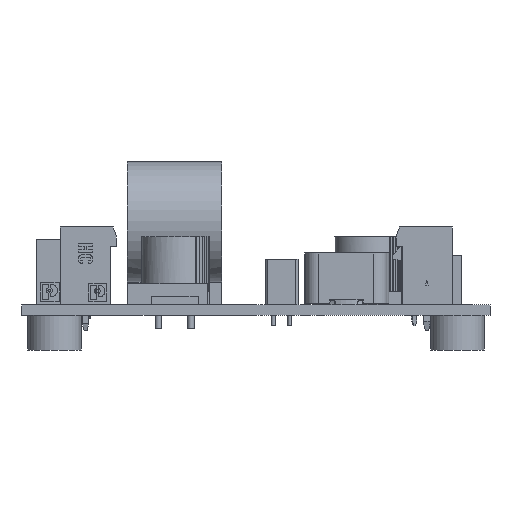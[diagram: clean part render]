
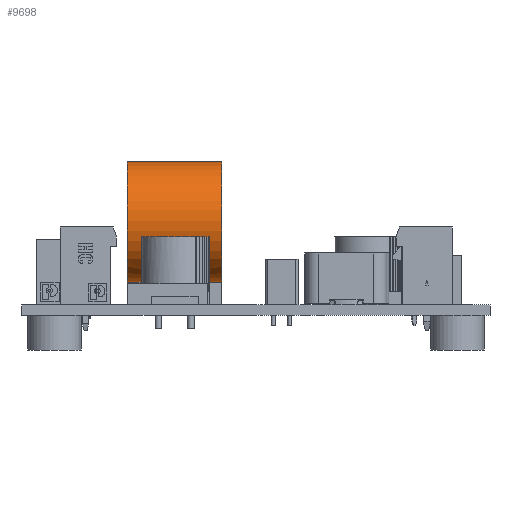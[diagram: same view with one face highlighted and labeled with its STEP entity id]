
A CAD part, front view. The second image highlights one B-rep face of the part: STEP entity #9698.
In plain terms, the highlighted cylindrical face has radius 9.25 mm (diameter 18.5 mm), a partial arc.
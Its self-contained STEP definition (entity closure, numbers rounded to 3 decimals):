
#785=CYLINDRICAL_SURFACE('',#105541,9.25);
#4484=FACE_OUTER_BOUND('',#23831,.T.);
#9698=ADVANCED_FACE('',(#4484),#785,.T.);
#16425=B_SPLINE_CURVE_WITH_KNOTS('',3,(#160018,#160019,#160020,#160021),
 .UNSPECIFIED.,.F.,.F.,(4,4),(0.,1.),.UNSPECIFIED.);
#16426=B_SPLINE_CURVE_WITH_KNOTS('',3,(#160030,#160031,#160032,#160033),
 .UNSPECIFIED.,.F.,.F.,(4,4),(0.,1.),.UNSPECIFIED.);
#16427=B_SPLINE_CURVE_WITH_KNOTS('',3,(#160042,#160043,#160044,#160045),
 .UNSPECIFIED.,.F.,.F.,(4,4),(0.,1.),.UNSPECIFIED.);
#16428=B_SPLINE_CURVE_WITH_KNOTS('',3,(#160066,#160067,#160068,#160069),
 .UNSPECIFIED.,.F.,.F.,(4,4),(0.,1.),.UNSPECIFIED.);
#16433=B_SPLINE_CURVE_WITH_KNOTS('',3,(#160108,#160109,#160110,#160111),
 .UNSPECIFIED.,.F.,.F.,(4,4),(0.,1.),.UNSPECIFIED.);
#16434=B_SPLINE_CURVE_WITH_KNOTS('',3,(#160123,#160124,#160125,#160126),
 .UNSPECIFIED.,.F.,.F.,(4,4),(0.,1.),.UNSPECIFIED.);
#17380=CIRCLE('',#105524,9.25);
#17381=CIRCLE('',#105526,9.25);
#17382=CIRCLE('',#105534,9.25);
#17383=CIRCLE('',#105536,9.25);
#17384=CIRCLE('',#105539,9.25);
#17385=CIRCLE('',#105540,9.25);
#23831=EDGE_LOOP('',(#42578,#42579,#42580,#42581,#42582,#42583,#42584,#42585,
#42586,#42587,#42588,#42589));
#42578=ORIENTED_EDGE('',*,*,#72435,.T.);
#42579=ORIENTED_EDGE('',*,*,#72395,.T.);
#42580=ORIENTED_EDGE('',*,*,#72407,.T.);
#42581=ORIENTED_EDGE('',*,*,#72413,.T.);
#42582=ORIENTED_EDGE('',*,*,#72410,.T.);
#42583=ORIENTED_EDGE('',*,*,#72403,.T.);
#42584=ORIENTED_EDGE('',*,*,#72436,.F.);
#42585=ORIENTED_EDGE('',*,*,#72428,.T.);
#42586=ORIENTED_EDGE('',*,*,#72432,.T.);
#42587=ORIENTED_EDGE('',*,*,#72434,.T.);
#42588=ORIENTED_EDGE('',*,*,#72430,.T.);
#42589=ORIENTED_EDGE('',*,*,#72399,.T.);
#60355=VERTEX_POINT('',#160022);
#60356=VERTEX_POINT('',#160023);
#60359=VERTEX_POINT('',#160034);
#60360=VERTEX_POINT('',#160035);
#60363=VERTEX_POINT('',#160046);
#60364=VERTEX_POINT('',#160047);
#60367=VERTEX_POINT('',#160055);
#60369=VERTEX_POINT('',#160061);
#60377=VERTEX_POINT('',#160099);
#60378=VERTEX_POINT('',#160112);
#60379=VERTEX_POINT('',#160116);
#60380=VERTEX_POINT('',#160120);
#72395=EDGE_CURVE('',#60355,#60356,#16425,.T.);
#72399=EDGE_CURVE('',#60359,#60360,#16426,.T.);
#72403=EDGE_CURVE('',#60363,#60364,#16427,.T.);
#72407=EDGE_CURVE('',#60356,#60367,#17380,.T.);
#72410=EDGE_CURVE('',#60369,#60363,#17381,.T.);
#72413=EDGE_CURVE('',#60367,#60369,#16428,.T.);
#72428=EDGE_CURVE('',#60377,#60378,#16433,.T.);
#72430=EDGE_CURVE('',#60379,#60359,#17382,.T.);
#72432=EDGE_CURVE('',#60378,#60380,#17383,.T.);
#72434=EDGE_CURVE('',#60380,#60379,#16434,.T.);
#72435=EDGE_CURVE('',#60360,#60355,#17384,.T.);
#72436=EDGE_CURVE('',#60377,#60364,#17385,.T.);
#105524=AXIS2_PLACEMENT_3D('',#160054,#124333,#124334);
#105526=AXIS2_PLACEMENT_3D('',#160060,#124339,#124340);
#105534=AXIS2_PLACEMENT_3D('',#160115,#124368,#124369);
#105536=AXIS2_PLACEMENT_3D('',#160119,#124373,#124374);
#105539=AXIS2_PLACEMENT_3D('',#160128,#124380,#124381);
#105540=AXIS2_PLACEMENT_3D('',#160129,#124382,#124383);
#105541=AXIS2_PLACEMENT_3D('',#160130,#124384,#124385);
#124333=DIRECTION('',(1.,0.,0.));
#124334=DIRECTION('',(0.,0.,-1.));
#124339=DIRECTION('',(-1.,0.,0.));
#124340=DIRECTION('',(0.,0.,1.));
#124368=DIRECTION('',(1.,0.,0.));
#124369=DIRECTION('',(0.,0.,-1.));
#124373=DIRECTION('',(-1.,0.,0.));
#124374=DIRECTION('',(0.,0.,1.));
#124380=DIRECTION('',(-1.,0.,0.));
#124381=DIRECTION('',(0.,-1.,0.));
#124382=DIRECTION('',(-1.,0.,0.));
#124383=DIRECTION('',(0.,-1.,0.));
#124384=DIRECTION('',(1.,0.,0.));
#124385=DIRECTION('',(0.,1.,0.));
#160018=CARTESIAN_POINT('',(30.728,50.238,3.51));
#160019=CARTESIAN_POINT('',(29.978,50.238,3.51));
#160020=CARTESIAN_POINT('',(29.228,50.238,3.51));
#160021=CARTESIAN_POINT('',(28.478,50.238,3.51));
#160022=CARTESIAN_POINT('',(30.728,50.238,3.51));
#160023=CARTESIAN_POINT('',(28.478,50.238,3.51));
#160030=CARTESIAN_POINT('',(28.478,49.378,3.51));
#160031=CARTESIAN_POINT('',(29.228,49.378,3.51));
#160032=CARTESIAN_POINT('',(29.978,49.378,3.51));
#160033=CARTESIAN_POINT('',(30.728,49.378,3.51));
#160034=CARTESIAN_POINT('',(28.478,49.378,3.51));
#160035=CARTESIAN_POINT('',(30.728,49.378,3.51));
#160042=CARTESIAN_POINT('',(18.478,50.238,3.51));
#160043=CARTESIAN_POINT('',(17.728,50.238,3.51));
#160044=CARTESIAN_POINT('',(16.978,50.238,3.51));
#160045=CARTESIAN_POINT('',(16.228,50.238,3.51));
#160046=CARTESIAN_POINT('',(18.478,50.238,3.51));
#160047=CARTESIAN_POINT('',(16.228,50.238,3.51));
#160054=CARTESIAN_POINT('',(28.478,49.808,12.75));
#160055=CARTESIAN_POINT('',(28.478,55.552,5.5));
#160060=CARTESIAN_POINT('',(18.478,49.808,12.75));
#160061=CARTESIAN_POINT('',(18.478,55.552,5.5));
#160066=CARTESIAN_POINT('',(28.478,55.552,5.5));
#160067=CARTESIAN_POINT('',(25.145,55.552,5.5));
#160068=CARTESIAN_POINT('',(21.811,55.552,5.5));
#160069=CARTESIAN_POINT('',(18.478,55.552,5.5));
#160099=CARTESIAN_POINT('',(16.228,49.378,3.51));
#160108=CARTESIAN_POINT('',(16.228,49.378,3.51));
#160109=CARTESIAN_POINT('',(16.978,49.378,3.51));
#160110=CARTESIAN_POINT('',(17.728,49.378,3.51));
#160111=CARTESIAN_POINT('',(18.478,49.378,3.51));
#160112=CARTESIAN_POINT('',(18.478,49.378,3.51));
#160115=CARTESIAN_POINT('',(28.478,49.808,12.75));
#160116=CARTESIAN_POINT('',(28.478,44.063,5.5));
#160119=CARTESIAN_POINT('',(18.478,49.808,12.75));
#160120=CARTESIAN_POINT('',(18.478,44.063,5.5));
#160123=CARTESIAN_POINT('',(18.478,44.063,5.5));
#160124=CARTESIAN_POINT('',(21.811,44.063,5.5));
#160125=CARTESIAN_POINT('',(25.145,44.063,5.5));
#160126=CARTESIAN_POINT('',(28.478,44.063,5.5));
#160128=CARTESIAN_POINT('',(30.728,49.808,12.75));
#160129=CARTESIAN_POINT('',(16.228,49.808,12.75));
#160130=CARTESIAN_POINT('',(30.728,49.808,12.75));
